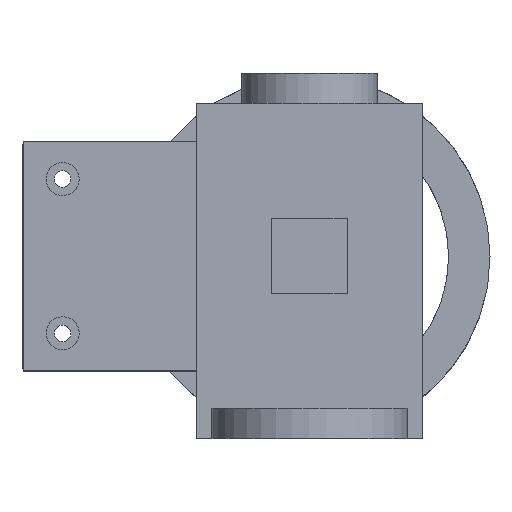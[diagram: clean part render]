
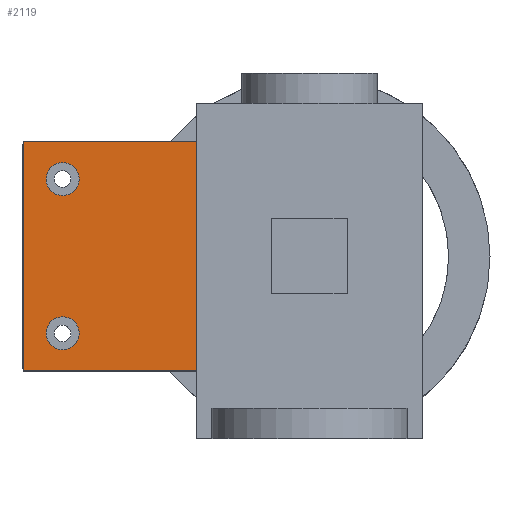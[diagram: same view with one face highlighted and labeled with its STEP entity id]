
A CAD part, top view. The second image highlights one B-rep face of the part: STEP entity #2119.
In plain terms, the highlighted planar face has unit normal (0, 0, 1).
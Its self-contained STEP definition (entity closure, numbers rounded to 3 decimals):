
#503 = PLANE('',#504);
#504 = AXIS2_PLACEMENT_3D('',#505,#506,#507);
#505 = CARTESIAN_POINT('',(-15.,-24.25,-20.956));
#506 = DIRECTION('',(1.,0.,0.));
#507 = DIRECTION('',(0.,0.,1.));
#1173 = VERTEX_POINT('',#1174);
#1174 = CARTESIAN_POINT('',(-15.,-15.2,-20.));
#1187 = PLANE('',#1188);
#1188 = AXIS2_PLACEMENT_3D('',#1189,#1190,#1191);
#1189 = CARTESIAN_POINT('',(10.5,-15.2,-20.));
#1190 = DIRECTION('',(0.,1.,0.));
#1191 = DIRECTION('',(0.,0.,-1.));
#1198 = EDGE_CURVE('',#1173,#1199,#1201,.T.);
#1199 = VERTEX_POINT('',#1200);
#1200 = CARTESIAN_POINT('',(-15.,15.2,-20.));
#1201 = SURFACE_CURVE('',#1202,(#1206,#1212),.PCURVE_S1.);
#1202 = LINE('',#1203,#1204);
#1203 = CARTESIAN_POINT('',(-15.,-19.725,-20.));
#1204 = VECTOR('',#1205,1.);
#1205 = DIRECTION('',(-0.,1.,0.));
#1206 = PCURVE('',#503,#1207);
#1207 = DEFINITIONAL_REPRESENTATION('',(#1208),#1211);
#1208 = B_SPLINE_CURVE_WITH_KNOTS('',1,(#1209,#1210),.UNSPECIFIED.,.F.,
  .F.,(2,2),(4.525,34.925),.PIECEWISE_BEZIER_KNOTS.);
#1209 = CARTESIAN_POINT('',(0.956,-9.05));
#1210 = CARTESIAN_POINT('',(0.956,-39.45));
#1211 = ( GEOMETRIC_REPRESENTATION_CONTEXT(2) 
PARAMETRIC_REPRESENTATION_CONTEXT() REPRESENTATION_CONTEXT('2D SPACE',''
  ) );
#1212 = PCURVE('',#1213,#1218);
#1213 = PLANE('',#1214);
#1214 = AXIS2_PLACEMENT_3D('',#1215,#1216,#1217);
#1215 = CARTESIAN_POINT('',(10.5,-15.2,-20.));
#1216 = DIRECTION('',(0.,0.,-1.));
#1217 = DIRECTION('',(-1.,0.,0.));
#1218 = DEFINITIONAL_REPRESENTATION('',(#1219),#1222);
#1219 = B_SPLINE_CURVE_WITH_KNOTS('',1,(#1220,#1221),.UNSPECIFIED.,.F.,
  .F.,(2,2),(4.525,34.925),.PIECEWISE_BEZIER_KNOTS.);
#1220 = CARTESIAN_POINT('',(25.5,0.));
#1221 = CARTESIAN_POINT('',(25.5,30.4));
#1222 = ( GEOMETRIC_REPRESENTATION_CONTEXT(2) 
PARAMETRIC_REPRESENTATION_CONTEXT() REPRESENTATION_CONTEXT('2D SPACE',''
  ) );
#1239 = PLANE('',#1240);
#1240 = AXIS2_PLACEMENT_3D('',#1241,#1242,#1243);
#1241 = CARTESIAN_POINT('',(10.5,15.2,-20.));
#1242 = DIRECTION('',(0.,1.,0.));
#1243 = DIRECTION('',(0.,0.,-1.));
#1914 = EDGE_CURVE('',#1199,#1915,#1917,.T.);
#1915 = VERTEX_POINT('',#1916);
#1916 = CARTESIAN_POINT('',(-38.,15.2,-20.));
#1917 = SURFACE_CURVE('',#1918,(#1922,#1929),.PCURVE_S1.);
#1918 = LINE('',#1919,#1920);
#1919 = CARTESIAN_POINT('',(10.5,15.2,-20.));
#1920 = VECTOR('',#1921,1.);
#1921 = DIRECTION('',(-1.,0.,0.));
#1922 = PCURVE('',#1239,#1923);
#1923 = DEFINITIONAL_REPRESENTATION('',(#1924),#1928);
#1924 = LINE('',#1925,#1926);
#1925 = CARTESIAN_POINT('',(0.,0.));
#1926 = VECTOR('',#1927,1.);
#1927 = DIRECTION('',(0.,1.));
#1928 = ( GEOMETRIC_REPRESENTATION_CONTEXT(2) 
PARAMETRIC_REPRESENTATION_CONTEXT() REPRESENTATION_CONTEXT('2D SPACE',''
  ) );
#1929 = PCURVE('',#1213,#1930);
#1930 = DEFINITIONAL_REPRESENTATION('',(#1931),#1935);
#1931 = LINE('',#1932,#1933);
#1932 = CARTESIAN_POINT('',(0.,30.4));
#1933 = VECTOR('',#1934,1.);
#1934 = DIRECTION('',(1.,0.));
#1935 = ( GEOMETRIC_REPRESENTATION_CONTEXT(2) 
PARAMETRIC_REPRESENTATION_CONTEXT() REPRESENTATION_CONTEXT('2D SPACE',''
  ) );
#2108 = PLANE('',#2109);
#2109 = AXIS2_PLACEMENT_3D('',#2110,#2111,#2112);
#2110 = CARTESIAN_POINT('',(-38.,-15.2,-20.));
#2111 = DIRECTION('',(-1.,0.,0.));
#2112 = DIRECTION('',(0.,0.,-1.));
#2119 = ADVANCED_FACE('',(#2120,#2168,#2203),#1213,.F.);
#2120 = FACE_BOUND('',#2121,.F.);
#2121 = EDGE_LOOP('',(#2122,#2123,#2124,#2147));
#2122 = ORIENTED_EDGE('',*,*,#1914,.F.);
#2123 = ORIENTED_EDGE('',*,*,#1198,.F.);
#2124 = ORIENTED_EDGE('',*,*,#2125,.T.);
#2125 = EDGE_CURVE('',#1173,#2126,#2128,.T.);
#2126 = VERTEX_POINT('',#2127);
#2127 = CARTESIAN_POINT('',(-38.,-15.2,-20.));
#2128 = SURFACE_CURVE('',#2129,(#2133,#2140),.PCURVE_S1.);
#2129 = LINE('',#2130,#2131);
#2130 = CARTESIAN_POINT('',(10.5,-15.2,-20.));
#2131 = VECTOR('',#2132,1.);
#2132 = DIRECTION('',(-1.,0.,0.));
#2133 = PCURVE('',#1213,#2134);
#2134 = DEFINITIONAL_REPRESENTATION('',(#2135),#2139);
#2135 = LINE('',#2136,#2137);
#2136 = CARTESIAN_POINT('',(0.,0.));
#2137 = VECTOR('',#2138,1.);
#2138 = DIRECTION('',(1.,0.));
#2139 = ( GEOMETRIC_REPRESENTATION_CONTEXT(2) 
PARAMETRIC_REPRESENTATION_CONTEXT() REPRESENTATION_CONTEXT('2D SPACE',''
  ) );
#2140 = PCURVE('',#1187,#2141);
#2141 = DEFINITIONAL_REPRESENTATION('',(#2142),#2146);
#2142 = LINE('',#2143,#2144);
#2143 = CARTESIAN_POINT('',(0.,0.));
#2144 = VECTOR('',#2145,1.);
#2145 = DIRECTION('',(0.,1.));
#2146 = ( GEOMETRIC_REPRESENTATION_CONTEXT(2) 
PARAMETRIC_REPRESENTATION_CONTEXT() REPRESENTATION_CONTEXT('2D SPACE',''
  ) );
#2147 = ORIENTED_EDGE('',*,*,#2148,.T.);
#2148 = EDGE_CURVE('',#2126,#1915,#2149,.T.);
#2149 = SURFACE_CURVE('',#2150,(#2154,#2161),.PCURVE_S1.);
#2150 = LINE('',#2151,#2152);
#2151 = CARTESIAN_POINT('',(-38.,-15.2,-20.));
#2152 = VECTOR('',#2153,1.);
#2153 = DIRECTION('',(0.,1.,0.));
#2154 = PCURVE('',#1213,#2155);
#2155 = DEFINITIONAL_REPRESENTATION('',(#2156),#2160);
#2156 = LINE('',#2157,#2158);
#2157 = CARTESIAN_POINT('',(48.5,0.));
#2158 = VECTOR('',#2159,1.);
#2159 = DIRECTION('',(0.,1.));
#2160 = ( GEOMETRIC_REPRESENTATION_CONTEXT(2) 
PARAMETRIC_REPRESENTATION_CONTEXT() REPRESENTATION_CONTEXT('2D SPACE',''
  ) );
#2161 = PCURVE('',#2108,#2162);
#2162 = DEFINITIONAL_REPRESENTATION('',(#2163),#2167);
#2163 = LINE('',#2164,#2165);
#2164 = CARTESIAN_POINT('',(0.,0.));
#2165 = VECTOR('',#2166,1.);
#2166 = DIRECTION('',(0.,-1.));
#2167 = ( GEOMETRIC_REPRESENTATION_CONTEXT(2) 
PARAMETRIC_REPRESENTATION_CONTEXT() REPRESENTATION_CONTEXT('2D SPACE',''
  ) );
#2168 = FACE_BOUND('',#2169,.F.);
#2169 = EDGE_LOOP('',(#2170));
#2170 = ORIENTED_EDGE('',*,*,#2171,.T.);
#2171 = EDGE_CURVE('',#2172,#2172,#2174,.T.);
#2172 = VERTEX_POINT('',#2173);
#2173 = CARTESIAN_POINT('',(-35.,-10.25,-20.));
#2174 = SURFACE_CURVE('',#2175,(#2180,#2191),.PCURVE_S1.);
#2175 = CIRCLE('',#2176,2.2);
#2176 = AXIS2_PLACEMENT_3D('',#2177,#2178,#2179);
#2177 = CARTESIAN_POINT('',(-32.8,-10.25,-20.));
#2178 = DIRECTION('',(0.,0.,1.));
#2179 = DIRECTION('',(-1.,0.,0.));
#2180 = PCURVE('',#1213,#2181);
#2181 = DEFINITIONAL_REPRESENTATION('',(#2182),#2190);
#2182 = ( BOUNDED_CURVE() B_SPLINE_CURVE(2,(#2183,#2184,#2185,#2186,
#2187,#2188,#2189),.UNSPECIFIED.,.T.,.F.) B_SPLINE_CURVE_WITH_KNOTS((1,2
    ,2,2,2,1),(-2.094,0.,2.094,4.189,
6.283,8.378),.UNSPECIFIED.) CURVE() 
GEOMETRIC_REPRESENTATION_ITEM() RATIONAL_B_SPLINE_CURVE((1.,0.5,1.,0.5,
1.,0.5,1.)) REPRESENTATION_ITEM('') );
#2183 = CARTESIAN_POINT('',(45.5,4.95));
#2184 = CARTESIAN_POINT('',(45.5,1.139));
#2185 = CARTESIAN_POINT('',(42.2,3.045));
#2186 = CARTESIAN_POINT('',(38.9,4.95));
#2187 = CARTESIAN_POINT('',(42.2,6.855));
#2188 = CARTESIAN_POINT('',(45.5,8.761));
#2189 = CARTESIAN_POINT('',(45.5,4.95));
#2190 = ( GEOMETRIC_REPRESENTATION_CONTEXT(2) 
PARAMETRIC_REPRESENTATION_CONTEXT() REPRESENTATION_CONTEXT('2D SPACE',''
  ) );
#2191 = PCURVE('',#2192,#2197);
#2192 = CYLINDRICAL_SURFACE('',#2193,2.2);
#2193 = AXIS2_PLACEMENT_3D('',#2194,#2195,#2196);
#2194 = CARTESIAN_POINT('',(-32.8,-10.25,-13.4));
#2195 = DIRECTION('',(0.,-0.,1.));
#2196 = DIRECTION('',(-1.,0.,0.));
#2197 = DEFINITIONAL_REPRESENTATION('',(#2198),#2202);
#2198 = LINE('',#2199,#2200);
#2199 = CARTESIAN_POINT('',(-6.283,-6.6));
#2200 = VECTOR('',#2201,1.);
#2201 = DIRECTION('',(1.,-0.));
#2202 = ( GEOMETRIC_REPRESENTATION_CONTEXT(2) 
PARAMETRIC_REPRESENTATION_CONTEXT() REPRESENTATION_CONTEXT('2D SPACE',''
  ) );
#2203 = FACE_BOUND('',#2204,.F.);
#2204 = EDGE_LOOP('',(#2205));
#2205 = ORIENTED_EDGE('',*,*,#2206,.T.);
#2206 = EDGE_CURVE('',#2207,#2207,#2209,.T.);
#2207 = VERTEX_POINT('',#2208);
#2208 = CARTESIAN_POINT('',(-35.,10.25,-20.));
#2209 = SURFACE_CURVE('',#2210,(#2215,#2226),.PCURVE_S1.);
#2210 = CIRCLE('',#2211,2.2);
#2211 = AXIS2_PLACEMENT_3D('',#2212,#2213,#2214);
#2212 = CARTESIAN_POINT('',(-32.8,10.25,-20.));
#2213 = DIRECTION('',(0.,0.,1.));
#2214 = DIRECTION('',(-1.,0.,0.));
#2215 = PCURVE('',#1213,#2216);
#2216 = DEFINITIONAL_REPRESENTATION('',(#2217),#2225);
#2217 = ( BOUNDED_CURVE() B_SPLINE_CURVE(2,(#2218,#2219,#2220,#2221,
#2222,#2223,#2224),.UNSPECIFIED.,.T.,.F.) B_SPLINE_CURVE_WITH_KNOTS((1,2
    ,2,2,2,1),(-2.094,0.,2.094,4.189,
6.283,8.378),.UNSPECIFIED.) CURVE() 
GEOMETRIC_REPRESENTATION_ITEM() RATIONAL_B_SPLINE_CURVE((1.,0.5,1.,0.5,
1.,0.5,1.)) REPRESENTATION_ITEM('') );
#2218 = CARTESIAN_POINT('',(45.5,25.45));
#2219 = CARTESIAN_POINT('',(45.5,21.639));
#2220 = CARTESIAN_POINT('',(42.2,23.545));
#2221 = CARTESIAN_POINT('',(38.9,25.45));
#2222 = CARTESIAN_POINT('',(42.2,27.355));
#2223 = CARTESIAN_POINT('',(45.5,29.261));
#2224 = CARTESIAN_POINT('',(45.5,25.45));
#2225 = ( GEOMETRIC_REPRESENTATION_CONTEXT(2) 
PARAMETRIC_REPRESENTATION_CONTEXT() REPRESENTATION_CONTEXT('2D SPACE',''
  ) );
#2226 = PCURVE('',#2227,#2232);
#2227 = CYLINDRICAL_SURFACE('',#2228,2.2);
#2228 = AXIS2_PLACEMENT_3D('',#2229,#2230,#2231);
#2229 = CARTESIAN_POINT('',(-32.8,10.25,-13.4));
#2230 = DIRECTION('',(0.,-0.,1.));
#2231 = DIRECTION('',(-1.,0.,0.));
#2232 = DEFINITIONAL_REPRESENTATION('',(#2233),#2237);
#2233 = LINE('',#2234,#2235);
#2234 = CARTESIAN_POINT('',(-6.283,-6.6));
#2235 = VECTOR('',#2236,1.);
#2236 = DIRECTION('',(1.,-0.));
#2237 = ( GEOMETRIC_REPRESENTATION_CONTEXT(2) 
PARAMETRIC_REPRESENTATION_CONTEXT() REPRESENTATION_CONTEXT('2D SPACE',''
  ) );
